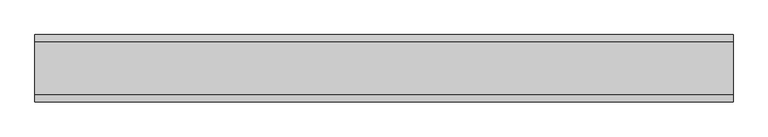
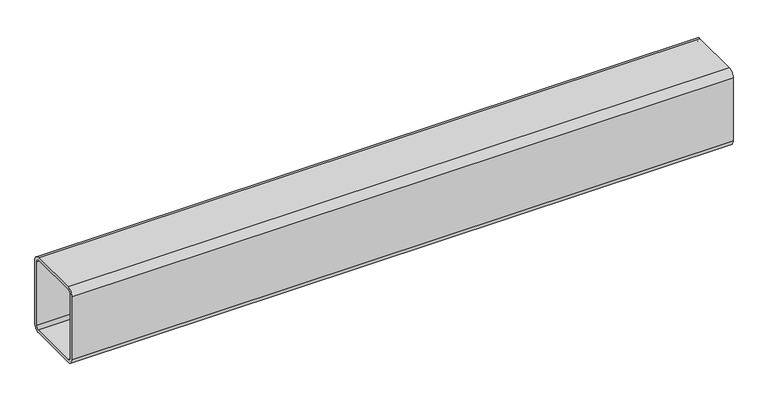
"""IFC4 building model written with IfcOpenShell, lengths in millimetres: beam geometry, Труба прямоугольного сечения (ТУ 67-2287-80) Балки : труба200x160x8."""

from ifc_helpers import new_model, si_unit, point, frame, frame_2d, origin, place, context, project, spatial, polyline, circle_curve, trimmed, segment, composite_curve, outline, extrude, source, transform, mapped, element, save


def beam_3270b68f(model_context):
    return source(origin(), model_context, "Body", "SweptSolid", [
        extrude(outline(composite_curve([segment(polyline([(-64.0, 100.0), (64.0, 100.0)]), True, "CONTINUOUS"), segment(trimmed(circle_curve(frame_2d((64.0, 84.0)), 16.0), [point((64.0, 100.0))], [point((80.0, 84.0))], False, "CARTESIAN"), True, "CONTINUOUS"), segment(polyline([(80.0, 84.0), (80.0, -84.0)]), True, "CONTINUOUS"), segment(trimmed(circle_curve(frame_2d((64.0, -84.0)), 16.0), [point((80.0, -84.0))], [point((64.0, -100.0))], False, "CARTESIAN"), True, "CONTINUOUS"), segment(polyline([(64.0, -100.0), (-64.0, -100.0)]), True, "CONTINUOUS"), segment(trimmed(circle_curve(frame_2d((-64.0, -84.0)), 16.0), [point((-64.0, -100.0))], [point((-80.0, -84.0))], False, "CARTESIAN"), True, "CONTINUOUS"), segment(polyline([(-80.0, -84.0), (-80.0, 84.0)]), True, "CONTINUOUS"), segment(trimmed(circle_curve(frame_2d((-64.0, 84.0)), 16.0), [point((-80.0, 84.0))], [point((-64.0, 100.0))], False, "CARTESIAN"), True, "CONTINUOUS")], self_intersect=False), holes=[composite_curve([segment(trimmed(circle_curve(frame_2d((-64.0, 84.0)), 8.0), [point((-64.0, 92.0))], [point((-72.0, 84.0))], True, "CARTESIAN"), True, "CONTINUOUS"), segment(polyline([(-72.0, 84.0), (-72.0, -84.0)]), True, "CONTINUOUS"), segment(trimmed(circle_curve(frame_2d((-64.0, -84.0)), 8.0), [point((-72.0, -84.0))], [point((-64.0, -92.0))], True, "CARTESIAN"), True, "CONTINUOUS"), segment(polyline([(-64.0, -92.0), (64.0, -92.0)]), True, "CONTINUOUS"), segment(trimmed(circle_curve(frame_2d((64.0, -84.0)), 8.0), [point((64.0, -92.0))], [point((72.0, -84.0))], True, "CARTESIAN"), True, "CONTINUOUS"), segment(polyline([(72.0, -84.0), (72.0, 84.0)]), True, "CONTINUOUS"), segment(trimmed(circle_curve(frame_2d((64.0, 84.0)), 8.0), [point((72.0, 84.0))], [point((64.0, 92.0))], True, "CARTESIAN"), True, "CONTINUOUS"), segment(polyline([(64.0, 92.0), (-64.0, 92.0)]), True, "CONTINUOUS")], self_intersect=False)]), frame((-790.0, 0.0, 0.0), z_axis=(1.0, 0.0, 0.0), x_axis=(0.0, 1.0, 0.0)), (0.0, 0.0, 1.0), 1660.0),
    ])


if __name__ == "__main__":
    model = new_model("IFC4")
    model_context = context("Model", 3, world=origin())
    ifc_project = project(units=[si_unit("LENGTHUNIT", "METRE", prefix="MILLI")], contexts=[model_context])
    site = spatial("IfcSite", under=ifc_project)
    building = spatial("IfcBuilding", under=site)
    placement = place(None, origin())
    beam_shape = beam_3270b68f(model_context)
    element("IfcBeam", 1, ObjectType="Труба прямоугольного сечения (ТУ 67-2287-80) Балки : труба200x160x8", at=placement, inside=building, context=model_context, shape_type="MappedRepresentation", body=[
        mapped(beam_shape, transform((0.0, 0.0, 0.0), x_axis=(1.0, 0.0, 0.0), y_axis=(0.0, 1.0, 0.0), z_axis=(0.0, 0.0, 1.0))),
    ])
    save(model, "model.ifc")
